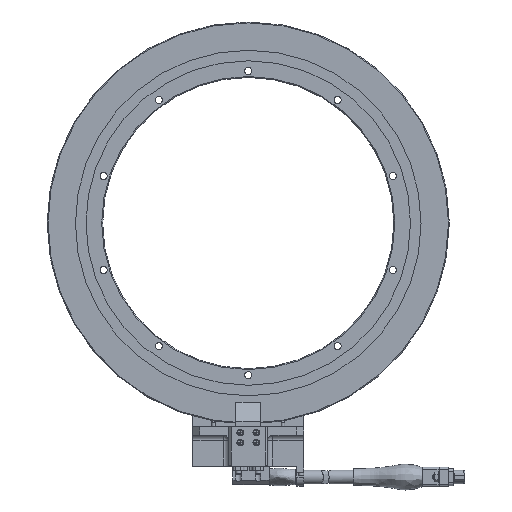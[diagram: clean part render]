
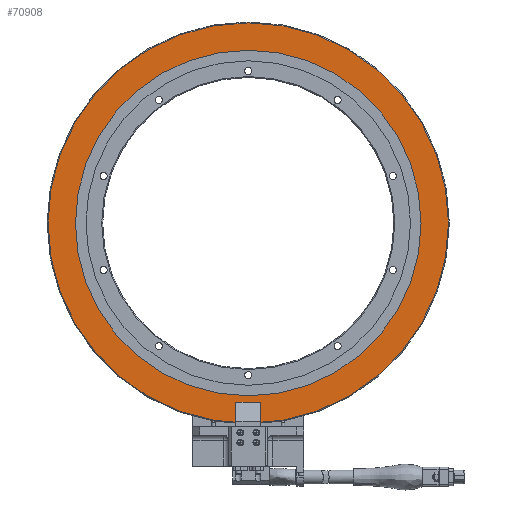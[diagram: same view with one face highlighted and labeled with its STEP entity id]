
A CAD part, front view. The second image highlights one B-rep face of the part: STEP entity #70908.
In plain terms, the highlighted planar face has unit normal (0, -1, 0).
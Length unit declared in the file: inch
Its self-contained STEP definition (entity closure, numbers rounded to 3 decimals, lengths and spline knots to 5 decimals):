
#1821 = AXIS2_PLACEMENT_3D ( 'NONE', #9182, #67837, #68330 ) ;
#4069 = VERTEX_POINT ( 'NONE', #78887 ) ;
#8961 = DIRECTION ( 'NONE',  ( 1., 0., 0. ) ) ;
#9182 = CARTESIAN_POINT ( 'NONE',  ( 0., 0., 0. ) ) ;
#12325 = FACE_OUTER_BOUND ( 'NONE', #95968, .T. ) ;
#14295 = VERTEX_POINT ( 'NONE', #28039 ) ;
#17476 = DIRECTION ( 'NONE',  ( 1., 0., 0. ) ) ;
#25755 = DIRECTION ( 'NONE',  ( 0., -1., 0. ) ) ;
#26227 = AXIS2_PLACEMENT_3D ( 'NONE', #84933, #25755, #17476 ) ;
#28039 = CARTESIAN_POINT ( 'NONE',  ( 3.61, 0., 0. ) ) ;
#32487 = CIRCLE ( 'NONE', #26227, 3.61 ) ;
#46193 = DIRECTION ( 'NONE',  ( 0., 1., 0. ) ) ;
#48054 = ORIENTED_EDGE ( 'NONE', *, *, #67877, .T. ) ;
#51606 = CARTESIAN_POINT ( 'NONE',  ( 0., 0., 0. ) ) ;
#55099 = EDGE_LOOP ( 'NONE', ( #74623 ) ) ;
#55933 = FACE_BOUND ( 'NONE', #55099, .T. ) ;
#56427 = CIRCLE ( 'NONE', #1821, 3.116 ) ;
#58128 = EDGE_CURVE ( 'NONE', #4069, #4069, #56427, .T. ) ;
#67837 = DIRECTION ( 'NONE',  ( 0., 1., 0. ) ) ;
#67877 = EDGE_CURVE ( 'NONE', #14295, #14295, #32487, .T. ) ;
#68330 = DIRECTION ( 'NONE',  ( 0., 0., 1. ) ) ;
#70908 = ADVANCED_FACE ( 'NONE', ( #12325, #55933 ), #89222, .F. ) ;
#74623 = ORIENTED_EDGE ( 'NONE', *, *, #58128, .T. ) ;
#78887 = CARTESIAN_POINT ( 'NONE',  ( 0., 0., 3.116 ) ) ;
#81215 = AXIS2_PLACEMENT_3D ( 'NONE', #51606, #46193, #8961 ) ;
#84933 = CARTESIAN_POINT ( 'NONE',  ( 0., 0., 0. ) ) ;
#89222 = PLANE ( 'NONE',  #81215 ) ;
#95968 = EDGE_LOOP ( 'NONE', ( #48054 ) ) ;
